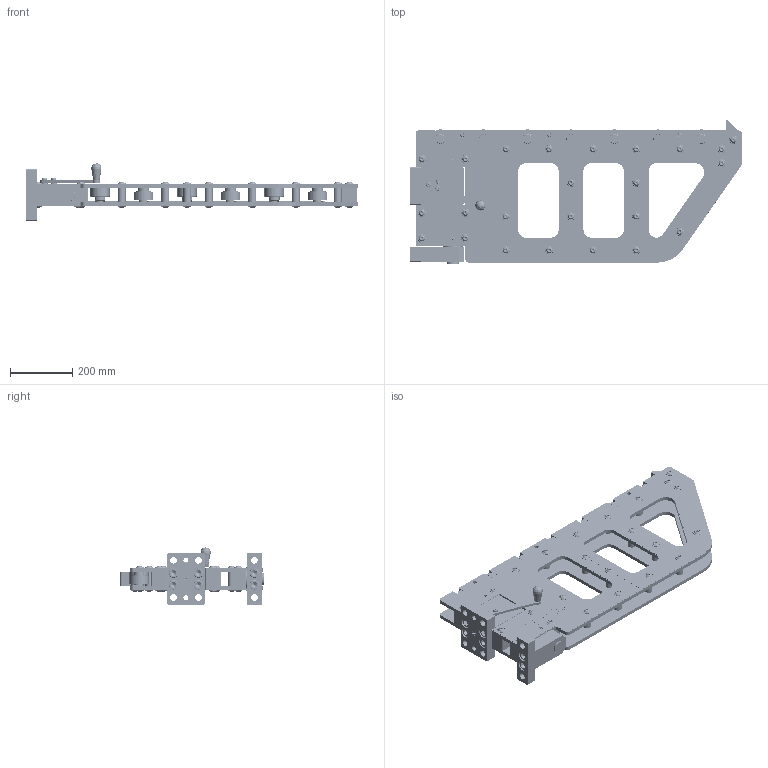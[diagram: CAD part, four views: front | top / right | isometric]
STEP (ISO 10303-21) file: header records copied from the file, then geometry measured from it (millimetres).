
FILE_DESCRIPTION(/* description */ ('CONSOLE PLATE LEFT'),/* implementation_level */ '2;1');
FILE_NAME(/* name */ 'C:\Users\jaccow\AppData\Local\Temp\Cadac\NetworkPub\step\FB736-950.iam.stp',/* time_stamp */ '2017-12-14T13:53:07+01:00',/* author */ ('yue'),/* organization */ (''),/* preprocessor_version */ 'ST-DEVELOPER v16.1',/* originating_system */ 'Autodesk Inventor 2016',/* authorisation */ '');
FILE_SCHEMA (('AUTOMOTIVE_DESIGN { 1 0 10303 214 3 1 1 }'));
Products named in the file (40): FB740-101; FB698-186; CCE1230-028-9A; FB836-690; FB699-690; FB704-044; FB701-104; FB735-104; EU120147-109; FB742-101; DQ1533-120; CAE1120-1081A; FB879-026; FB880-026; FB833-298; FB738-950; FB646-101; FB835-690; CCA2031-0281A; FB647-070; PP0327-070; CAA1635-0612C; PP0329-155; PP0137-155; CBA1025-0281B; FB649-061; PP0140-110; PP0305-108; PP0379-130; PP0380-108; FB644-950; PP0310-071; FB705-104; CCA819-0285C; FB707-101; FB708-690; CCA2033-0281A; FB706-950; FB709-104; FB736-950
Assembly tree (142 placements, depth 3):
  FB736-950
    FB738-950
      FB740-101  x2
      FB698-186  x17
      CCE1230-028-9A  x51
      FB836-690
      FB699-690  x2
      FB704-044
      FB701-104  x7
      FB735-104  x7
      EU120147-109  x7
      FB742-101
      DQ1533-120  x3
      CAE1120-1081A  x3
      FB879-026
      FB880-026
      FB833-298
    FB644-950
      FB646-101
      FB835-690
      CCA2031-0281A  x4
      FB647-070
      PP0327-070
      CAA1635-0612C
      PP0329-155  x2
      PP0137-155
      CBA1025-0281B
      FB649-061
      PP0140-110
      PP0305-108  x2
      PP0379-130  x2
      PP0380-108  x2
    PP0310-071  x2
    FB705-104
    CCA819-0285C  x4
    FB706-950
      FB707-101
      FB708-690
      CCA2033-0281A  x2
      PP0329-155
    FB709-104
Bounding box: 1068 x 461.67 x 184 mm (x, y, z)
Volume: 12319507.1 mm3; surface area: 2995443.6 mm2
Topology: 169 solids, 169 shells, 5439 faces, 12945 edges, 8382 vertices
Faces by surface type: plane 2857, bspline 1151, cylinder 623, cone 607, torus 200, sphere 1
Full cylindrical faces by diameter (mm): 1.875 x7, 3 x2, 4.2 x7, 6.466 x2, 6.647 x6, 6.648 x1, 8 x6, 8.376 x1, 8.4 x1, 9.42 x2, 10 x9, 10.1 x1, 10.106 x24, 10.5 x5, 12 x54, 12.5 x2, 13 x3, 13.5 x43, 14 x2, 15 x1, 16 x4, 16.1 x3, 17.294 x6, 19.95 x7, 20 x27, 20.1 x1, 21 x4, 21.5 x12, 22.425 x1, 24 x3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
Entity records: 110784 total; most frequent: CARTESIAN_POINT 34014, ORIENTED_EDGE 16694, DIRECTION 11919, EDGE_CURVE 8338, VERTEX_POINT 5689, LINE 5557, VECTOR 5557, EDGE_LOOP 4124
